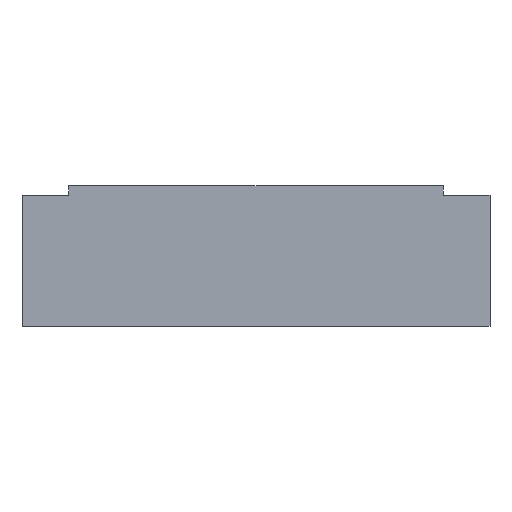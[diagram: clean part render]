
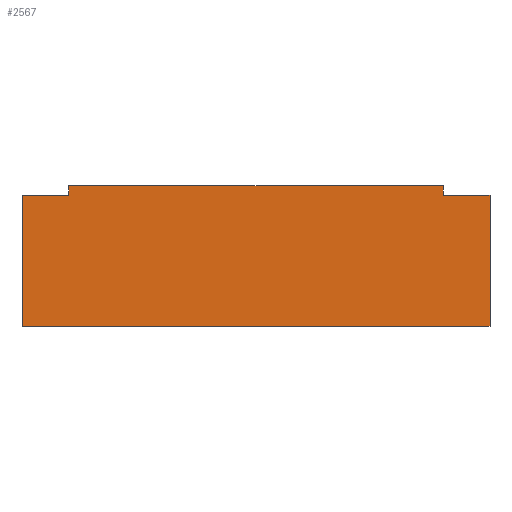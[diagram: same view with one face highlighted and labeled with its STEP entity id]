
A CAD part, left-side view. The second image highlights one B-rep face of the part: STEP entity #2567.
In plain terms, the highlighted planar face has unit normal (-1, 0, 0).
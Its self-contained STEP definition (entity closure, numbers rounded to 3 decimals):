
#15 = CARTESIAN_POINT ( 'NONE',  ( -48., -40., 30. ) ) ;
#49 = PLANE ( 'NONE',  #1495 ) ;
#78 = DIRECTION ( 'NONE',  ( 0., 0., 1. ) ) ;
#91 = EDGE_CURVE ( 'NONE', #331, #369, #1762, .T. ) ;
#190 = VECTOR ( 'NONE', #2204, 1000. ) ;
#192 = CARTESIAN_POINT ( 'NONE',  ( -48., 50., 30. ) ) ;
#219 = DIRECTION ( 'NONE',  ( 0., -1., 0. ) ) ;
#256 = VERTEX_POINT ( 'NONE', #1089 ) ;
#269 = VECTOR ( 'NONE', #728, 1000. ) ;
#331 = VERTEX_POINT ( 'NONE', #1543 ) ;
#369 = VERTEX_POINT ( 'NONE', #1317 ) ;
#394 = CARTESIAN_POINT ( 'NONE',  ( -48., -40., 28. ) ) ;
#413 = EDGE_CURVE ( 'NONE', #987, #2431, #1499, .T. ) ;
#490 = LINE ( 'NONE', #1702, #1620 ) ;
#509 = VECTOR ( 'NONE', #219, 1000. ) ;
#538 = ORIENTED_EDGE ( 'NONE', *, *, #1253, .F. ) ;
#598 = VECTOR ( 'NONE', #981, 1000. ) ;
#676 = DIRECTION ( 'NONE',  ( 0., 0., -1. ) ) ;
#678 = DIRECTION ( 'NONE',  ( 1., 0., 0. ) ) ;
#687 = VECTOR ( 'NONE', #2477, 1000. ) ;
#728 = DIRECTION ( 'NONE',  ( 0., -1., 0. ) ) ;
#743 = DIRECTION ( 'NONE',  ( 0., 0., -1. ) ) ;
#797 = VERTEX_POINT ( 'NONE', #394 ) ;
#813 = ORIENTED_EDGE ( 'NONE', *, *, #996, .F. ) ;
#885 = EDGE_CURVE ( 'NONE', #987, #331, #1215, .T. ) ;
#900 = CARTESIAN_POINT ( 'NONE',  ( -48., 40., 28. ) ) ;
#950 = VERTEX_POINT ( 'NONE', #15 ) ;
#981 = DIRECTION ( 'NONE',  ( 0., -1., 0. ) ) ;
#987 = VERTEX_POINT ( 'NONE', #1682 ) ;
#996 = EDGE_CURVE ( 'NONE', #256, #369, #490, .T. ) ;
#1089 = CARTESIAN_POINT ( 'NONE',  ( -48., -50., 28. ) ) ;
#1194 = CARTESIAN_POINT ( 'NONE',  ( -48., -50., 0. ) ) ;
#1215 = LINE ( 'NONE', #192, #687 ) ;
#1231 = CARTESIAN_POINT ( 'NONE',  ( -48., 40., 30. ) ) ;
#1253 = EDGE_CURVE ( 'NONE', #950, #797, #2195, .T. ) ;
#1262 = DIRECTION ( 'NONE',  ( 0., 0., -1. ) ) ;
#1282 = CARTESIAN_POINT ( 'NONE',  ( -48., -50., 30. ) ) ;
#1317 = CARTESIAN_POINT ( 'NONE',  ( -48., -50., 0. ) ) ;
#1328 = CARTESIAN_POINT ( 'NONE',  ( -48., 40., 28. ) ) ;
#1359 = LINE ( 'NONE', #1799, #190 ) ;
#1370 = VERTEX_POINT ( 'NONE', #1231 ) ;
#1456 = CARTESIAN_POINT ( 'NONE',  ( -48., -40., 28. ) ) ;
#1495 = AXIS2_PLACEMENT_3D ( 'NONE', #1282, #678, #1262 ) ;
#1499 = LINE ( 'NONE', #2369, #269 ) ;
#1543 = CARTESIAN_POINT ( 'NONE',  ( -48., 50., 0. ) ) ;
#1553 = ORIENTED_EDGE ( 'NONE', *, *, #413, .F. ) ;
#1573 = LINE ( 'NONE', #1456, #509 ) ;
#1620 = VECTOR ( 'NONE', #676, 1000. ) ;
#1682 = CARTESIAN_POINT ( 'NONE',  ( -48., 50., 28. ) ) ;
#1702 = CARTESIAN_POINT ( 'NONE',  ( -48., -50., 30. ) ) ;
#1709 = EDGE_CURVE ( 'NONE', #1370, #950, #1359, .T. ) ;
#1762 = LINE ( 'NONE', #1194, #598 ) ;
#1794 = ORIENTED_EDGE ( 'NONE', *, *, #1964, .F. ) ;
#1799 = CARTESIAN_POINT ( 'NONE',  ( -48., -50., 30. ) ) ;
#1808 = CARTESIAN_POINT ( 'NONE',  ( -48., -40., 28. ) ) ;
#1849 = FACE_OUTER_BOUND ( 'NONE', #2449, .T. ) ;
#1964 = EDGE_CURVE ( 'NONE', #2431, #1370, #2346, .T. ) ;
#2050 = ORIENTED_EDGE ( 'NONE', *, *, #885, .T. ) ;
#2071 = ORIENTED_EDGE ( 'NONE', *, *, #2210, .F. ) ;
#2195 = LINE ( 'NONE', #1808, #2550 ) ;
#2204 = DIRECTION ( 'NONE',  ( 0., -1., 0. ) ) ;
#2210 = EDGE_CURVE ( 'NONE', #797, #256, #1573, .T. ) ;
#2229 = ORIENTED_EDGE ( 'NONE', *, *, #1709, .F. ) ;
#2285 = VECTOR ( 'NONE', #78, 1000. ) ;
#2346 = LINE ( 'NONE', #1328, #2285 ) ;
#2369 = CARTESIAN_POINT ( 'NONE',  ( -48., 58.266, 28. ) ) ;
#2431 = VERTEX_POINT ( 'NONE', #900 ) ;
#2449 = EDGE_LOOP ( 'NONE', ( #813, #2071, #538, #2229, #1794, #1553, #2050, #2620 ) ) ;
#2477 = DIRECTION ( 'NONE',  ( 0., 0., -1. ) ) ;
#2550 = VECTOR ( 'NONE', #743, 1000. ) ;
#2567 = ADVANCED_FACE ( 'NONE', ( #1849 ), #49, .F. ) ;
#2620 = ORIENTED_EDGE ( 'NONE', *, *, #91, .T. ) ;
